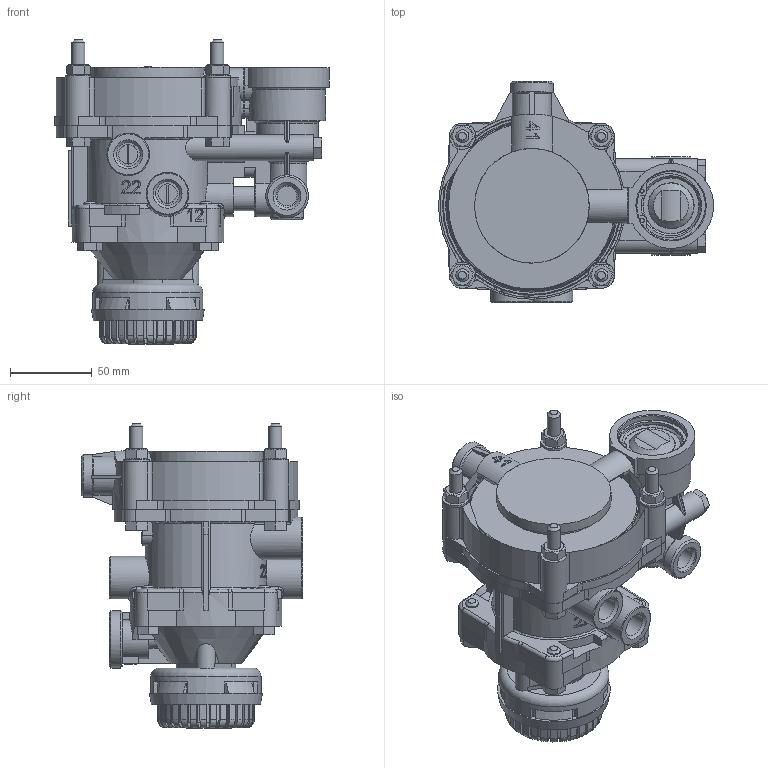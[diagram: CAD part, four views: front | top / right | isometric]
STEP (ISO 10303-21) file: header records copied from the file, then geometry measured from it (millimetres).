
FILE_DESCRIPTION(/* description */ (''),/* implementation_level */ '2;1');
FILE_NAME(/* name */ '6024.35.22.010-30-Клапан управления тормозами прицепа с двухпроводным прицепом.stp',/* time_stamp */ '2023-10-24T11:16:01+03:00',/* author */ (''),/* organization */ (''),/* preprocessor_version */ 'ST-DEVELOPER v16.7',/* originating_system */ 'SIEMENS PLM Software NX 1899',/* authorisation */ '');
FILE_SCHEMA (('AUTOMOTIVE_DESIGN { 1 0 10303 214 3 1 1 1 }'));
Products named in the file (1): kuzm60B8FC360tk6
Bounding box: 167.9 x 135 x 186 mm (x, y, z)
Volume: 543935.2 mm3; surface area: 282376.9 mm2
Topology: 2 solids, 23 shells, 1968 faces, 5496 edges, 3574 vertices
Faces by surface type: plane 1044, cylinder 484, cone 143, torus 134, extrusion 122, sphere 30, bspline 11
Full cylindrical faces by diameter (mm): 2.5 x2, 4 x2, 5 x3, 5.5 x5, 6.7 x2, 6.75 x2, 7 x3, 8 x19, 8.5 x1, 9 x5, 9.3 x4, 9.5 x4, 11 x1, 11.3 x2, 11.8 x3, 12 x2, 12.1 x1, 13.5 x4, 13.7 x4, 14.5 x9, 14.8 x3, 15 x2, 16 x6, 17 x1, 17.5 x1, 19.4 x1, 20 x2, 22 x1, 24 x1, 24.3 x1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
Entity records: 73244 total; most frequent: CARTESIAN_POINT 21644, ORIENTED_EDGE 10236, DIRECTION 9551, EDGE_CURVE 5118, AXIS2_PLACEMENT_3D 3622, VERTEX_POINT 3458, EDGE_LOOP 2432, VECTOR 2307
